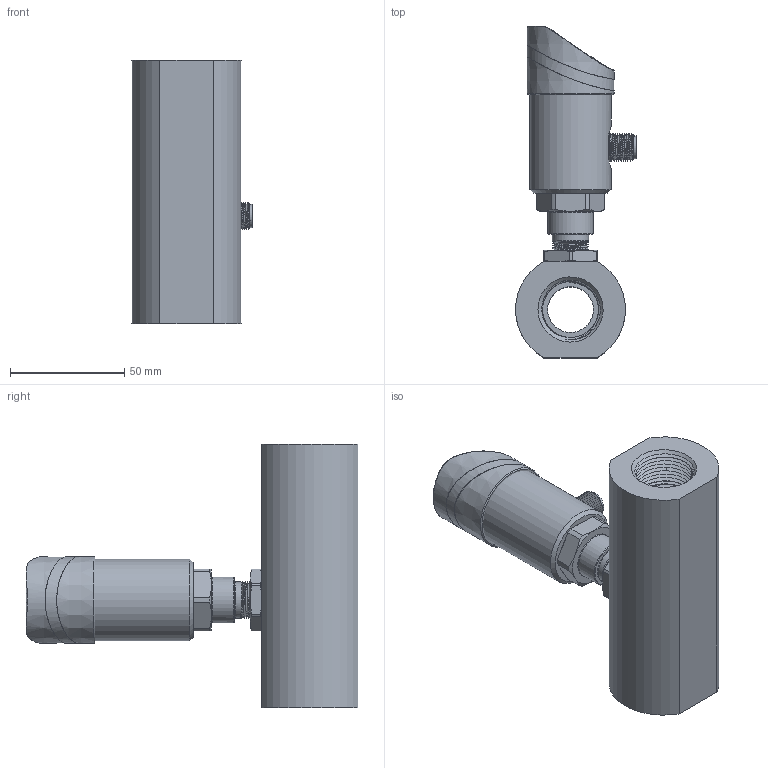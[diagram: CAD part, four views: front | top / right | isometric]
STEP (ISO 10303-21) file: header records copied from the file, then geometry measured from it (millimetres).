
FILE_DESCRIPTION( (''), '2;1');
FILE_NAME( 'QTKE_DN20_female-thread.step', '2024-10-15T10:15:07+08:00', (''), (''), '', '', '');
FILE_SCHEMA (('AUTOMOTIVE_DESIGN { 1 0 10303 214 3 1 1 1 }'));
Length unit declared in the file: millimetre
Products named in the file (1): QTKE DN20_female-thread
Bounding box: 52.62 x 145 x 115 mm (x, y, z)
Volume: 217225.8 mm3; surface area: 57329.2 mm2
Topology: 5 solids, 6 shells, 729 faces, 1892 edges, 1234 vertices
Faces by surface type: plane 268, extrusion 141, cylinder 130, bspline 76, cone 71, torus 32, sphere 11
Full cylindrical faces by diameter (mm): 1.689 x1, 2.7 x3, 12 x1, 15 x1, 15.9 x1, 16.5 x1, 20 x2, 23 x3, 24.5 x2, 26 x5, 35.5 x1, 37.001 x1
Entity records: 35042 total; most frequent: CARTESIAN_POINT 17064, ORIENTED_EDGE 3602, DIRECTION 2769, EDGE_CURVE 1801, VERTEX_POINT 1199, VECTOR 961, AXIS2_PLACEMENT_3D 904, EDGE_LOOP 850
